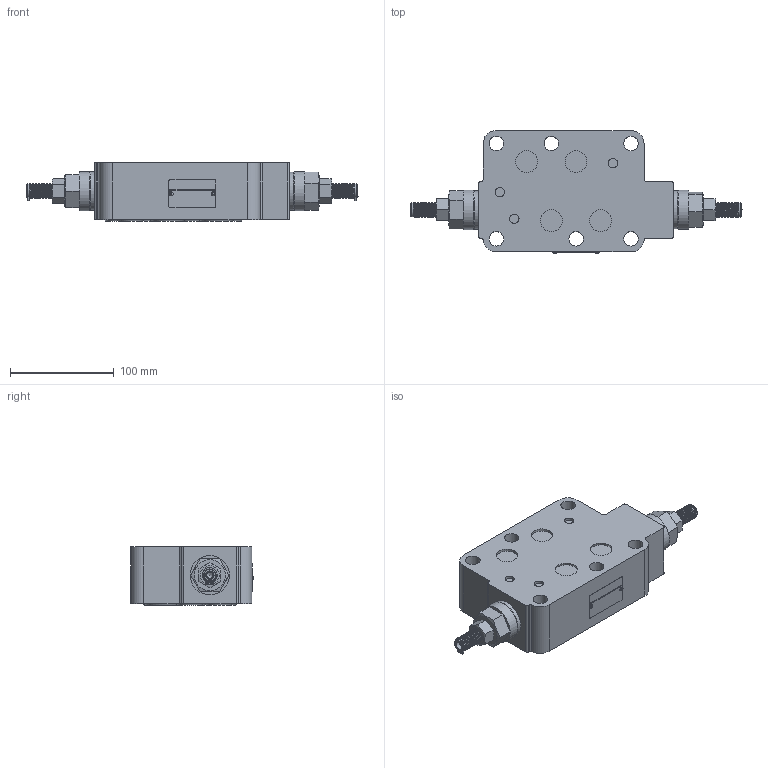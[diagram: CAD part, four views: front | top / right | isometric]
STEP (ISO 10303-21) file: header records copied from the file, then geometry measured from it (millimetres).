
FILE_DESCRIPTION(/* description */ (''),/* implementation_level */ '2;1');
FILE_NAME(/* name */ 'Z2FS22-3XJ叠加式单向节流阀.prt.stp',/* time_stamp */ '2022-03-30T20:05:52+08:00',/* author */ (''),/* organization */ (''),/* preprocessor_version */ 'ST-DEVELOPER v16.7',/* originating_system */ 'SIEMENS PLM Software NX 12.0',/* authorisation */ '');
FILE_SCHEMA (('AUTOMOTIVE_DESIGN { 1 0 10303 214 3 1 1 1 }'));
Length unit declared in the file: millimetre
Products named in the file (1): Z2FS22-3XJ叠加式单向节流阀
Bounding box: 320.38 x 118.6 x 56.61 mm (x, y, z)
Volume: 1230796.4 mm3; surface area: 144660.3 mm2
Topology: 23 solids, 33 shells, 301 faces, 642 edges, 418 vertices
Faces by surface type: plane 126, cylinder 114, torus 24, cone 21, bspline 16
Full cylindrical faces by diameter (mm): 1.5 x4, 1.8 x2, 1.9 x2, 2.5 x2, 6 x4, 6.9 x2, 7.5 x2, 9 x3, 11.5 x2, 12 x2, 12.5 x2, 14 x6, 16.5 x2, 19.5 x2, 21 x2, 24.5 x3, 32.4 x4, 37 x4, 38 x2
Entity records: 22170 total; most frequent: CARTESIAN_POINT 15917, DIRECTION 1198, ORIENTED_EDGE 1016, AXIS2_PLACEMENT_3D 509, EDGE_CURVE 508, EDGE_LOOP 439, VERTEX_POINT 402, ADVANCED_FACE 301
